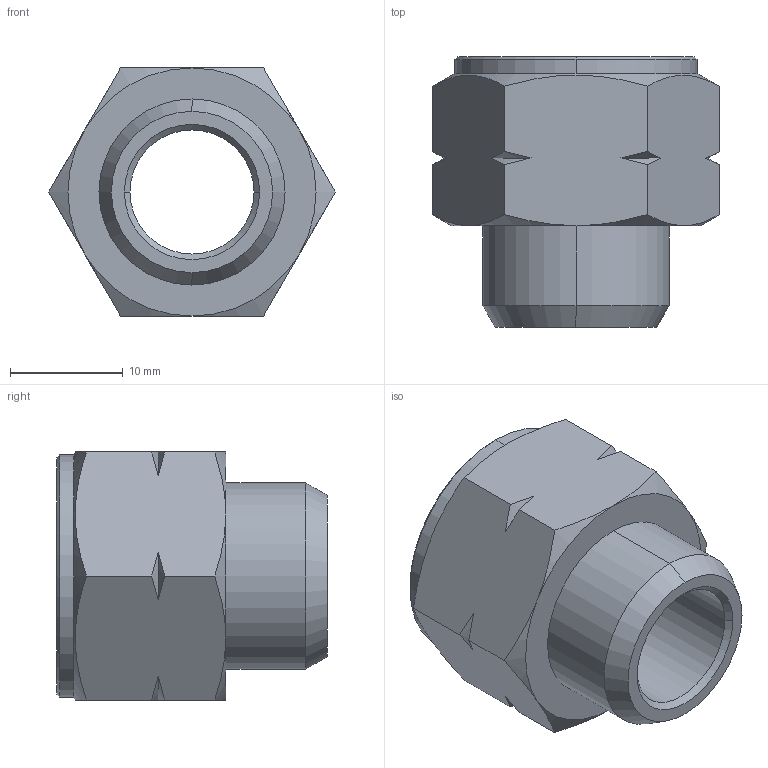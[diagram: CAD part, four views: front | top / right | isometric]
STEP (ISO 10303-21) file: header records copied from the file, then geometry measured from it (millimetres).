
FILE_DESCRIPTION (( 'STEP AP214' ), '1' );
FILE_NAME ('822420001AB00.STEP', '2015-07-08T12:25:48', ( '' ), ( '' ), 'SwSTEP 2.0', 'SolidWorks 2015', '' );
FILE_SCHEMA (( 'AUTOMOTIVE_DESIGN' ));
Length unit declared in the file: millimetre
Products named in the file (1): 822420001AB00
Bounding box: 25.4 x 24 x 22 mm (x, y, z)
Volume: 4382.4 mm3; surface area: 3117.6 mm2
Topology: 1 solids, 1 shells, 48 faces, 114 edges, 70 vertices
Faces by surface type: cone 30, plane 10, cylinder 8
Entity records: 1534 total; most frequent: CARTESIAN_POINT 445, ORIENTED_EDGE 228, DIRECTION 206, EDGE_CURVE 114, AXIS2_PLACEMENT_3D 87, VERTEX_POINT 70, EDGE_LOOP 52, FACE_OUTER_BOUND 48
